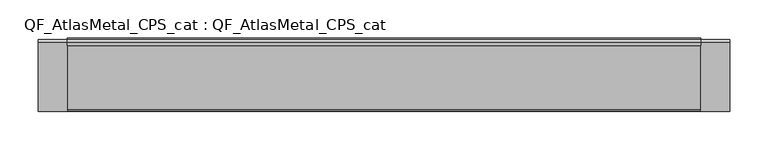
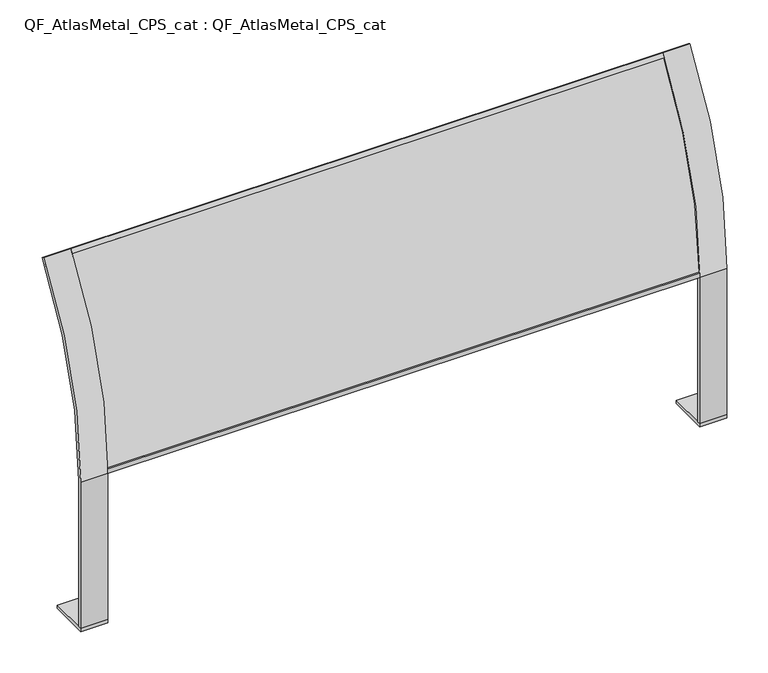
"""IFC4 building model written with IfcOpenShell, lengths in millimetres: proxy geometry, QF_AtlasMetal_CPS_cat : QF_AtlasMetal_CPS_cat."""

import ifcopenshell
import ifcopenshell.guid

model = None  # the IFC model being written
_history = None  # IfcOwnerHistory: only IFC2X3 demands one
_inside = {}  # id of a spatial element -> (the spatial element, [elements in it])
_under = {}  # id of a project, library or spatial element -> (it, [spatial elements below it])
_declared = {}  # id of a project -> (the project, [libraries it declares])
_typed = {}  # id of a type object -> (the type object, [elements of that type])
_made_of = {}  # id of a material, layer set ... -> (it, [elements and type objects made of it])


def new_model(schema):
    """Start an empty IFC model of exactly this schema.

    Asked for "IFC4X3", IfcOpenShell would pick the latest addendum, in which some entities
    have other attributes; the version numbers below select the first issue.
    IFC2X3 requires an IfcOwnerHistory on every rooted entity: one is made here for all.
    """
    global model, _history
    if schema == "IFC4X3":
        model = ifcopenshell.file(schema_version=(4, 3, 0, 0))
    else:
        model = ifcopenshell.file(schema=schema)
    _inside.clear()
    _under.clear()
    _declared.clear()
    _typed.clear()
    _made_of.clear()
    _history = None
    if model.schema == "IFC2X3":
        org = make("IfcOrganization", Name="unknown")
        user = make(
            "IfcPersonAndOrganization",
            ThePerson=make("IfcPerson", FamilyName="unknown"),
            TheOrganization=org,
        )
        app = make(
            "IfcApplication",
            ApplicationDeveloper=org,
            Version="unknown",
            ApplicationFullName="unknown",
            ApplicationIdentifier="unknown",
        )
        _history = make(
            "IfcOwnerHistory",
            OwningUser=user,
            OwningApplication=app,
            ChangeAction="ADDED",
            CreationDate=0,
        )
    return model


def make(cls, **values):
    """One entity of the class cls with the attributes given. An attribute that is None is left unset."""
    return model.create_entity(
        cls, **{name: value for name, value in values.items() if value is not None}
    )


def rooted(cls, **values):
    """An entity with a GlobalId (a new one), such as an element, a storey or a relation."""
    return make(cls, GlobalId=ifcopenshell.guid.new(), OwnerHistory=_history, **values)


def si_unit(unit_type, name, prefix=None):
    """IfcSIUnit, for example si_unit("LENGTHUNIT", "METRE", prefix="MILLI")."""
    return make("IfcSIUnit", UnitType=unit_type, Prefix=prefix, Name=name)


def assignment(units):
    """IfcUnitAssignment: the units of a project."""
    return None if units is None else make("IfcUnitAssignment", Units=units)


def point(xyz):
    """IfcCartesianPoint."""
    return None if xyz is None else make("IfcCartesianPoint", Coordinates=xyz)


def direction(xyz):
    """IfcDirection."""
    return None if xyz is None else make("IfcDirection", DirectionRatios=xyz)


def frame(location, z_axis=None, x_axis=None):
    """IfcAxis2Placement3D, a coordinate frame: its origin and axes. An axis left out is left unset."""
    return make(
        "IfcAxis2Placement3D",
        Location=point(location),
        Axis=direction(z_axis),
        RefDirection=direction(x_axis),
    )


def frame_2d(location, x_axis=None):
    """IfcAxis2Placement2D, a coordinate frame in the plane: its origin and x axis."""
    return make(
        "IfcAxis2Placement2D", Location=point(location), RefDirection=direction(x_axis)
    )


def origin():
    """The frame at (0, 0, 0) with its axes left unset."""
    return frame((0.0, 0.0, 0.0))


def origin_with_axes():
    """The frame at (0, 0, 0) with the z axis (0, 0, 1) and the x axis (1, 0, 0) written out."""
    return frame((0.0, 0.0, 0.0), z_axis=(0.0, 0.0, 1.0), x_axis=(1.0, 0.0, 0.0))


def place(relative_to, where):
    """IfcLocalPlacement: puts the frame where relative to a parent placement (None: the world)."""
    return make(
        "IfcLocalPlacement", PlacementRelTo=relative_to, RelativePlacement=where
    )


def context(
    kind, dimensions, precision=None, world=None, true_north=None, identifier=None
):
    """IfcGeometricRepresentationContext, for example the 3D "Model" context."""
    return make(
        "IfcGeometricRepresentationContext",
        ContextIdentifier=identifier,
        ContextType=kind,
        CoordinateSpaceDimension=dimensions,
        Precision=precision,
        WorldCoordinateSystem=world,
        TrueNorth=true_north,
    )


def project(units=None, contexts=None):
    """IfcProject with its units and contexts."""
    return rooted(
        "IfcProject",
        Name="project",
        RepresentationContexts=contexts,
        UnitsInContext=assignment(units),
    )


def spatial(cls, under=None, at=None, **own):
    """A site, building, storey or space (cls), placed at a placement, below another one or the project."""
    s = rooted(cls, ObjectPlacement=at, **own)
    if under is not None:
        _under.setdefault(under.id(), (under, []))[1].append(s)
    return s


def polyline(points):
    """IfcPolyline through the points."""
    return make("IfcPolyline", Points=[point(p) for p in points])


def circle_curve(where, radius):
    """IfcCircle in the frame where."""
    return make("IfcCircle", Position=where, Radius=radius)


def trimmed(basis, trim1, trim2, sense, master):
    """IfcTrimmedCurve: the piece of a basis curve between two trims."""
    return make(
        "IfcTrimmedCurve",
        BasisCurve=basis,
        Trim1=trim1,
        Trim2=trim2,
        SenseAgreement=sense,
        MasterRepresentation=master,
    )


def segment(curve, same_sense, transition):
    """IfcCompositeCurveSegment."""
    return make(
        "IfcCompositeCurveSegment",
        Transition=transition,
        SameSense=same_sense,
        ParentCurve=curve,
    )


def composite_curve(segments, self_intersect=None):
    """IfcCompositeCurve: segments joined end to end."""
    return make("IfcCompositeCurve", Segments=segments, SelfIntersect=self_intersect)


def outline(outer, holes=None, kind="AREA"):
    """IfcArbitraryClosedProfileDef: a profile drawn as a closed curve; with holes, ...WithVoids."""
    if holes is None:
        return make("IfcArbitraryClosedProfileDef", ProfileType=kind, OuterCurve=outer)
    return make(
        "IfcArbitraryProfileDefWithVoids",
        ProfileType=kind,
        OuterCurve=outer,
        InnerCurves=holes,
    )


def extrude(swept, where, along, depth):
    """IfcExtrudedAreaSolid: the profile swept, set in the frame where, extruded along a direction by depth."""
    return make(
        "IfcExtrudedAreaSolid",
        SweptArea=swept,
        Position=where,
        ExtrudedDirection=direction(along),
        Depth=depth,
    )


def shape(context_of_items, identifier, shape_type, items):
    """IfcShapeRepresentation: the items that make up one representation, for example the "Body"."""
    return make(
        "IfcShapeRepresentation",
        ContextOfItems=context_of_items,
        RepresentationIdentifier=identifier,
        RepresentationType=shape_type,
        Items=items,
    )


def source(mapping_origin, context_of_items, identifier, shape_type, items):
    """IfcRepresentationMap: a shape defined once, which mapped items show again and again."""
    return make(
        "IfcRepresentationMap",
        MappingOrigin=mapping_origin,
        MappedRepresentation=shape(context_of_items, identifier, shape_type, items),
    )


def transform(
    local_origin,
    x_axis=None,
    y_axis=None,
    z_axis=None,
    scale=None,
    scale2=None,
    scale3=None,
    uniform=True,
):
    """IfcCartesianTransformationOperator3D, or its non-uniform kind. x_axis, y_axis, z_axis: its Axis1, 2, 3."""
    if uniform:
        return make(
            "IfcCartesianTransformationOperator3D",
            Axis1=direction(x_axis),
            Axis2=direction(y_axis),
            LocalOrigin=point(local_origin),
            Scale=scale,
            Axis3=direction(z_axis),
        )
    return make(
        "IfcCartesianTransformationOperator3DnonUniform",
        Axis1=direction(x_axis),
        Axis2=direction(y_axis),
        LocalOrigin=point(local_origin),
        Scale=scale,
        Axis3=direction(z_axis),
        Scale2=scale2,
        Scale3=scale3,
    )


def mapped(mapping_source, mapping_target):
    """IfcMappedItem: shows the shape of a source again, moved by a transform."""
    return make(
        "IfcMappedItem", MappingSource=mapping_source, MappingTarget=mapping_target
    )


def made_of(thing, what):
    """Note that an element or type object is made of a material, layer set ...; save() writes the relation."""
    if what is not None:
        _made_of.setdefault(what.id(), (what, []))[1].append(thing)
    return thing


def element(
    cls,
    number,
    at=None,
    inside=None,
    cuts=None,
    type_object=None,
    material=None,
    context=None,
    identifier="Body",
    shape_type=None,
    held_by="IfcProductDefinitionShape",
    body=None,
    shapes=None,
    **own,
):
    """One element of the class cls, such as IfcWall. Its Tag is "e" and its number.

    at: its placement. inside: the storey or other place that contains it. cuts: it is an
    opening in that element (IfcRelVoidsElement). A single representation is given by context,
    identifier, shape_type and body (its items); several are given by shapes. held_by: the class
    of the entity that holds the representations. save() writes the other relations.
    """
    e = rooted(cls, Tag="e%d" % number, ObjectPlacement=at, **own)
    if body is not None:
        shapes = [shape(context, identifier, shape_type, body)]
    if shapes is not None:
        e.Representation = make(held_by, Representations=shapes)
    if inside is not None:
        _inside.setdefault(inside.id(), (inside, []))[1].append(e)
    if cuts is not None:
        rooted(
            "IfcRelVoidsElement", RelatingBuildingElement=cuts, RelatedOpeningElement=e
        )
    if type_object is not None:
        _typed.setdefault(type_object.id(), (type_object, []))[1].append(e)
    return made_of(e, material)


def aggregate(whole, parts):
    """IfcRelAggregates: a whole, such as a stair, and the parts it consists of."""
    return rooted("IfcRelAggregates", RelatingObject=whole, RelatedObjects=parts)


def save(model, path):
    """Write the relations noted so far, then the file.

    IfcRelAggregates (storeys below a building ...), IfcRelContainedInSpatialStructure (elements
    in a storey), IfcRelDefinesByType, IfcRelAssociatesMaterial and IfcRelDeclares: one each for
    every whole, place, type object, material and project.
    """
    for whole, parts in _under.values():
        aggregate(whole, parts)
    for where, things in _inside.values():
        rooted(
            "IfcRelContainedInSpatialStructure",
            RelatedElements=things,
            RelatingStructure=where,
        )
    for kind, things in _typed.values():
        rooted("IfcRelDefinesByType", RelatedObjects=things, RelatingType=kind)
    for what, things in _made_of.values():
        rooted("IfcRelAssociatesMaterial", RelatedObjects=things, RelatingMaterial=what)
    for by, libraries in _declared.values():
        rooted("IfcRelDeclares", RelatingContext=by, RelatedDefinitions=libraries)
    model.write(path)


def qf_atlasmetal_cps_cat_qf_atlasmetal_cps_cat_13a1b425(model_context):
    return source(origin(), model_context, "Body", "SweptSolid", [
        extrude(outline(composite_curve([segment(trimmed(circle_curve(frame_2d((327.373136, 222.25)), 464.304536), [point((-52.3891012, 489.3817003))], [point((-136.8879755, 228.6))], True, "CARTESIAN"), True, "CONTINUOUS"), segment(polyline([(-136.8879755, 228.6), (-146.7948827, 228.6)]), True, "CONTINUOUS"), segment(trimmed(circle_curve(frame_2d((327.373136, 222.25)), 474.210536), [point((-146.7948827, 228.6))], [point((-60.4913798, 495.0809913))], False, "CARTESIAN"), True, "CONTINUOUS"), segment(polyline([(-60.4913798, 495.0809913), (-52.3891012, 489.3817003)]), True, "CONTINUOUS")], self_intersect=False)), frame((-357.2694255, 0.0, 0.0), z_axis=(1.0, 0.0, 0.0), x_axis=(0.0, 1.0, 0.0)), (0.0, 0.0, 1.0), 831.85),
        extrude(outline(composite_curve([segment(trimmed(circle_curve(frame_2d((327.373136, 222.25)), 471.822936), [point((-144.4070675, 228.6))], [point((-144.4498, 222.25))], True, "CARTESIAN"), True, "CONTINUOUS"), segment(polyline([(-144.4498, 222.25), (-149.225, 222.25)]), True, "CONTINUOUS"), segment(trimmed(circle_curve(frame_2d((327.373136, 222.25)), 476.598136), [point((-149.225, 222.25))], [point((-149.1826957, 228.6))], False, "CARTESIAN"), True, "CONTINUOUS"), segment(polyline([(-149.1826957, 228.6), (-144.4070675, 228.6)]), True, "CONTINUOUS")], self_intersect=False)), frame((-357.2694255, 0.0, 0.0), z_axis=(1.0, 0.0, 0.0), x_axis=(0.0, 1.0, 0.0)), (0.0, 0.0, 1.0), 831.85),
        extrude(outline(composite_curve([segment(polyline([(-58.7375, 501.65), (-54.8689253, 498.8505957)]), True, "CONTINUOUS"), segment(trimmed(circle_curve(frame_2d((327.373136, 222.25)), 471.822936), [point((-54.8689253, 498.8505957))], [point((-58.5569182, 493.681163))], True, "CARTESIAN"), True, "CONTINUOUS"), segment(polyline([(-58.5569182, 493.681163), (-62.4258398, 496.4808183)]), True, "CONTINUOUS"), segment(trimmed(circle_curve(frame_2d((327.373136, 222.25)), 476.598136), [point((-62.4258398, 496.4808183))], [point((-58.7375, 501.65))], False, "CARTESIAN"), True, "CONTINUOUS")], self_intersect=False)), frame((-357.2694255, 0.0, 0.0), z_axis=(1.0, 0.0, 0.0), x_axis=(0.0, 1.0, 0.0)), (0.0, 0.0, 1.0), 831.85),
        extrude(outline(composite_curve([segment(trimmed(circle_curve(frame_2d((327.373136, 222.25)), 476.598136), [point((-149.225, 222.25))], [point((-58.7375, 501.65))], False, "CARTESIAN"), True, "CONTINUOUS"), segment(polyline([(-58.7375, 501.65), (-54.8689253, 498.8505957)]), True, "CONTINUOUS"), segment(trimmed(circle_curve(frame_2d((327.373136, 222.25)), 471.822936), [point((-54.8689253, 498.8505957))], [point((-144.4498, 222.25))], True, "CARTESIAN"), True, "CONTINUOUS"), segment(polyline([(-144.4498, 222.25), (-144.4498, 4.7625), (-149.225, 4.7625), (-149.225, 222.25)]), True, "CONTINUOUS")], self_intersect=False)), frame((-395.3694255, 0.0, 0.0), z_axis=(1.0, 0.0, 0.0), x_axis=(0.0, 1.0, 0.0)), (0.0, 0.0, 1.0), 38.1),
        extrude(outline(composite_curve([segment(trimmed(circle_curve(frame_2d((327.373136, 222.25)), 476.598136), [point((-149.225, 222.25))], [point((-58.7375, 501.65))], False, "CARTESIAN"), True, "CONTINUOUS"), segment(polyline([(-58.7375, 501.65), (-54.8689253, 498.8505957)]), True, "CONTINUOUS"), segment(trimmed(circle_curve(frame_2d((327.373136, 222.25)), 471.822936), [point((-54.8689253, 498.8505957))], [point((-144.4498, 222.25))], True, "CARTESIAN"), True, "CONTINUOUS"), segment(polyline([(-144.4498, 222.25), (-144.4498, 4.7625), (-149.225, 4.7625), (-149.225, 222.25)]), True, "CONTINUOUS")], self_intersect=False)), frame((474.5805745, 0.0, 0.0), z_axis=(1.0, 0.0, 0.0), x_axis=(0.0, 1.0, 0.0)), (0.0, 0.0, 1.0), 38.1),
        extrude(outline(polyline([(512.6805745, -92.075), (512.6805745, -149.225), (474.5805745, -149.225), (474.5805745, -92.075), (512.6805745, -92.075)])), origin_with_axes(), (0.0, 0.0, 1.0), 4.7625),
        extrude(outline(polyline([(-357.2694255, -92.075), (-357.2694255, -149.225), (-395.3694255, -149.225), (-395.3694255, -92.075), (-357.2694255, -92.075)])), origin_with_axes(), (0.0, 0.0, 1.0), 4.7625),
    ])


if __name__ == "__main__":
    model = new_model("IFC4")
    model_context = context("Model", 3, world=origin())
    ifc_project = project(units=[si_unit("LENGTHUNIT", "METRE", prefix="MILLI")], contexts=[model_context])
    site = spatial("IfcSite", under=ifc_project)
    building = spatial("IfcBuilding", under=site)
    placement = place(None, origin())
    qf_atlasmetal_cps_cat_qf_atlasmetal_cps_cat_shape = qf_atlasmetal_cps_cat_qf_atlasmetal_cps_cat_13a1b425(model_context)
    element("IfcBuildingElementProxy", 1, Name="QF_AtlasMetal_CPS_cat : QF_AtlasMetal_CPS_cat", ObjectType="QF_AtlasMetal_CPS_cat : QF_AtlasMetal_CPS_cat", at=placement, inside=building, context=model_context, shape_type="MappedRepresentation", body=[
        mapped(qf_atlasmetal_cps_cat_qf_atlasmetal_cps_cat_shape, transform((0.0, 0.0, 0.0), x_axis=(1.0, 0.0, 0.0), y_axis=(0.0, 1.0, 0.0), z_axis=(0.0, 0.0, 1.0))),
    ])
    save(model, "model.ifc")
